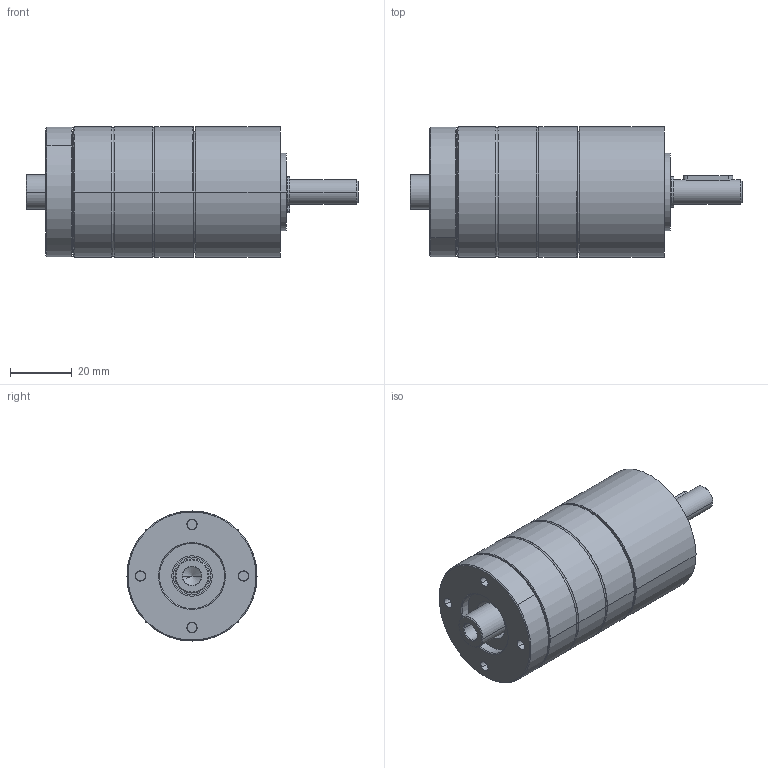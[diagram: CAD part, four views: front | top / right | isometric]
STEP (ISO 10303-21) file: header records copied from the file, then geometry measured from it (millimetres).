
FILE_DESCRIPTION((''),'2;1');
FILE_NAME('IMS42_PRO_3_STAGE_ASM','2024-09-02T13:23:44',('mhummel'),(''),'CREO PARAMETRIC BY PTC INC, 2020184','CREO PARAMETRIC BY PTC INC, 2020184','');
FILE_SCHEMA(('AUTOMOTIVE_DESIGN { 1 0 10303 214 1 1 1 1 }'));
Length unit declared in the file: millimetre
Products named in the file (14): IMS42_PRO_BEARING_FLANGE; IMS42_PRO_BALL_BEARING; IMS42_PRO_RING_GEAR_3_STAGE; IMS42_PRO_MOTOR_FLANGE; IMS42_SHIM_RING; IMS42_PRO_SHAFT_RAW_AF0; IMS42_PRO_SHAFT_ASM; IMS42_PRO_RETAINING_RING_A; IMS42_PRO_FEATHER_KEY; IMS42_PRO_THRUST_WASHER_1_STAGE; IMS42_PRO_SCREW_3_STAGE; IMS42_PRO_PINION_LONG; IMS42_PRO_PINION_SHORT; IMS42_PRO_3_STAGE_ASM
Assembly tree (17 placements, depth 3):
  IMS42_PRO_3_STAGE_ASM
    IMS42_PRO_BEARING_FLANGE
    IMS42_PRO_BALL_BEARING  x2
    IMS42_PRO_RING_GEAR_3_STAGE
    IMS42_PRO_MOTOR_FLANGE
    IMS42_SHIM_RING
    IMS42_PRO_SHAFT_ASM
      IMS42_PRO_SHAFT_RAW_AF0
    IMS42_PRO_RETAINING_RING_A
    IMS42_PRO_FEATHER_KEY
    IMS42_PRO_THRUST_WASHER_1_STAGE
    IMS42_PRO_SCREW_3_STAGE  x4
    IMS42_PRO_PINION_LONG
    IMS42_PRO_PINION_SHORT
Bounding box: 107.15 x 42 x 42 mm (x, y, z)
Volume: 79361 mm3; surface area: 42575.4 mm2
Topology: 20 solids, 22 shells, 432 faces, 929 edges, 550 vertices
Faces by surface type: cylinder 166, cone 110, plane 98, torus 58
Entity records: 12962 total; most frequent: DIRECTION 1889, CARTESIAN_POINT 1609, ORIENTED_EDGE 1446, AXIS2_PLACEMENT_3D 796, PRESENTATION_STYLE_ASSIGNMENT 791, STYLED_ITEM 764, CURVE_STYLE 723, EDGE_CURVE 723
